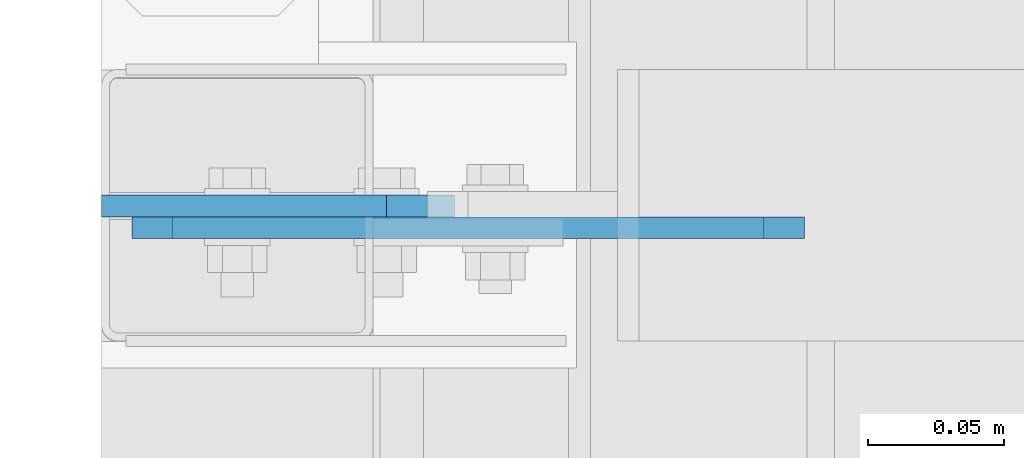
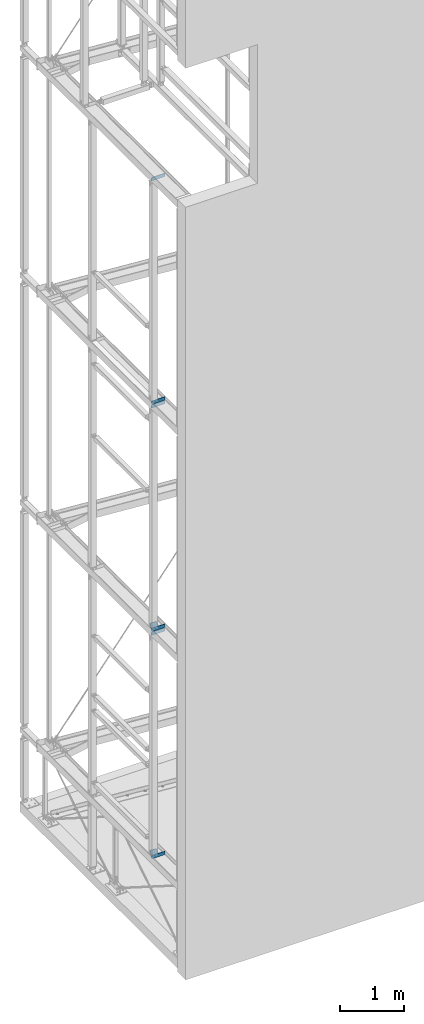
# One storey, part 104 of 271: 8 plates, 6 elements without a shape of their own.
"""IFC2X3 building model written with IfcOpenShell, lengths in millimetres."""

from ifc_helpers import new_model, si_unit, frame, origin_with_axes, place, context, subcontext, project, spatial, polyline, outline, extrude, material, type_object, element, aggregate, save


model = new_model("IFC2X3")

# Units and contexts
model_context = context("Model", 3, precision=1e-05, world=origin_with_axes())
body_context = subcontext(model_context, "Body", "Model", "MODEL_VIEW")
ifc_project = project(units=[si_unit("LENGTHUNIT", "METRE", prefix="MILLI"), si_unit("AREAUNIT", "SQUARE_METRE"), si_unit("VOLUMEUNIT", "CUBIC_METRE"), si_unit("MASSUNIT", "GRAM", prefix="KILO"), si_unit("TIMEUNIT", "SECOND"), si_unit("PLANEANGLEUNIT", "RADIAN"), si_unit("SOLIDANGLEUNIT", "STERADIAN"), si_unit("THERMODYNAMICTEMPERATUREUNIT", "DEGREE_CELSIUS"), si_unit("LUMINOUSINTENSITYUNIT", "LUMEN")], contexts=[model_context])

# Site, building, storey
site_placement = place(None, origin_with_axes())
site = spatial("IfcSite", under=ifc_project, at=site_placement, Name="Undefined", CompositionType="ELEMENT")
building_placement = place(site_placement, origin_with_axes())
building = spatial("IfcBuilding", under=site, at=building_placement, Name="Undefined", CompositionType="ELEMENT")
storey_placement = place(building_placement, origin_with_axes())
storey = spatial("IfcBuildingStorey", under=building, at=storey_placement, Name="Undefined", CompositionType="ELEMENT", Elevation=0.0)

# Assembly, plate
assembly_1_placement = place(storey_placement, origin_with_axes())
assembly_1 = element("IfcElementAssembly", 1, at=assembly_1_placement, inside=storey, AssemblyPlace="NOTDEFINED", PredefinedType="RIGID_FRAME")
ifc_material = material(Name="STEEL/S355JR")
plate_type_1 = type_object("IfcPlateType", Name="BL8*130", PredefinedType="NOTDEFINED")
plate_1_placement = place(assembly_1_placement, frame((118.375687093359, 899.052119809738, 5851.84999990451), z_axis=(0.0, 1.0, 0.0), x_axis=(0.0, 0.0, -1.0)))
plate_1 = element("IfcPlate", 2, at=plate_1_placement, type_object=plate_type_1, material=ifc_material, Name="BLACHA", ObjectType="BL8*130", context=body_context, shape_type="SweptSolid", body=[
    extrude(outline(polyline([(0.0, 25.0), (70.0, -8.66862137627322e-13), (150.0, -1.68398628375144e-12), (150.0, 105.0), (90.0, 105.0), (90.0, 130.0), (-3.5527136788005e-14, 130.0), (0.0, 25.0)])), frame((0.0, 0.0, -4.0), z_axis=(0.0, 0.0, 1.0), x_axis=(1.0, 0.0, 0.0)), (0.0, 0.0, 1.0), 8.0),
])
aggregate(assembly_1, [plate_1])

assembly_2_placement = place(storey_placement, origin_with_axes())
assembly_2 = element("IfcElementAssembly", 3, at=assembly_2_placement, inside=storey, AssemblyPlace="NOTDEFINED", PredefinedType="RIGID_FRAME")
plate_2_placement = place(assembly_2_placement, frame((118.375687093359, 899.052119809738, 1531.84999990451), z_axis=(0.0, 1.0, 0.0), x_axis=(0.0, 0.0, -1.0)))
plate_2 = element("IfcPlate", 4, at=plate_2_placement, type_object=plate_type_1, material=ifc_material, Name="BLACHA", ObjectType="BL8*130", context=body_context, shape_type="SweptSolid", body=[
    extrude(outline(polyline([(0.0, 25.0), (70.0, -8.66862137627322e-13), (150.0, -1.68398628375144e-12), (150.0, 105.0), (90.0, 105.0), (90.0, 130.0), (-3.5527136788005e-14, 130.0), (0.0, 25.0)])), frame((0.0, 0.0, -4.0), z_axis=(0.0, 0.0, 1.0), x_axis=(1.0, 0.0, 0.0)), (0.0, 0.0, 1.0), 8.0),
])
aggregate(assembly_2, [plate_2])

assembly_3_placement = place(storey_placement, origin_with_axes())
assembly_3 = element("IfcElementAssembly", 5, at=assembly_3_placement, inside=storey, AssemblyPlace="NOTDEFINED", PredefinedType="RIGID_FRAME")
plate_type_2 = type_object("IfcPlateType", Name="BL8*64", PredefinedType="NOTDEFINED")
plate_3_placement = place(assembly_3_placement, frame((-0.42431309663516, 891.052119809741, 14256.8499999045), z_axis=(0.0, 1.0, 0.0), x_axis=(0.0, 0.0, 1.0)))
plate_3 = element("IfcPlate", 6, at=plate_3_placement, type_object=plate_type_2, material=ifc_material, Name="BLACHA", ObjectType="BL8*64", context=body_context, shape_type="SweptSolid", body=[
    extrude(outline(polyline([(0.0, 0.0), (49.1999969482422, 0.0), (64.1999969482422, 15.0), (64.1999969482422, 232.600006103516), (49.1999969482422, 247.600006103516), (0.0, 247.600006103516), (0.0, 0.0)])), frame((0.0, 0.0, -4.0), z_axis=(0.0, 0.0, 1.0), x_axis=(1.0, 0.0, 0.0)), (0.0, 0.0, 1.0), 8.0),
])
aggregate(assembly_3, [plate_3])

# Assembly, plates
assembly_4_placement = place(storey_placement, origin_with_axes())
assembly_4 = element("IfcElementAssembly", 7, at=assembly_4_placement, inside=storey, AssemblyPlace="NOTDEFINED", PredefinedType="RIGID_FRAME")
plate_4_placement = place(assembly_4_placement, frame((-0.42431309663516, 891.052119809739, 9936.84999990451), z_axis=(0.0, 1.0, 0.0), x_axis=(0.0, 0.0, 1.0)))
plate_4 = element("IfcPlate", 8, at=plate_4_placement, type_object=plate_type_2, material=ifc_material, Name="BLACHA", ObjectType="BL8*64", context=body_context, shape_type="SweptSolid", body=[
    extrude(outline(polyline([(0.0, 0.0), (49.1999969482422, 0.0), (64.1999969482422, 15.0), (64.1999969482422, 232.600006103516), (49.1999969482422, 247.600006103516), (0.0, 247.600006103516), (0.0, 0.0)])), frame((0.0, 0.0, -4.0), z_axis=(0.0, 0.0, 1.0), x_axis=(1.0, 0.0, 0.0)), (0.0, 0.0, 1.0), 8.0),
])
plate_5_placement = place(assembly_4_placement, frame((-0.42431309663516, 891.052119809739, 10007.649999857), z_axis=(0.0, 1.0, 0.0), x_axis=(0.0, 0.0, 1.0)))
plate_5 = element("IfcPlate", 9, at=plate_5_placement, type_object=plate_type_2, material=ifc_material, Name="BLACHA", ObjectType="BL8*64", context=body_context, shape_type="SweptSolid", body=[
    extrude(outline(polyline([(0.0, 15.0), (15.0, -1.59872115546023e-14), (64.1999969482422, -1.77635683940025e-14), (64.1999969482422, 247.600006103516), (15.0, 247.600006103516), (0.0, 232.600006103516), (0.0, 15.0)])), frame((0.0, 0.0, -4.0), z_axis=(0.0, 0.0, 1.0), x_axis=(1.0, 0.0, 0.0)), (0.0, 0.0, 1.0), 8.0),
])
aggregate(assembly_4, [plate_4, plate_5])

# Assembly, plate
assembly_5_placement = place(storey_placement, origin_with_axes())
assembly_5 = element("IfcElementAssembly", 10, at=assembly_5_placement, inside=storey, AssemblyPlace="NOTDEFINED", PredefinedType="RIGID_FRAME")
plate_6_placement = place(assembly_5_placement, frame((-0.42431309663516, 891.052119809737, 1367.64999985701), z_axis=(0.0, 1.0, 0.0), x_axis=(0.0, 0.0, 1.0)))
plate_6 = element("IfcPlate", 11, at=plate_6_placement, type_object=plate_type_2, material=ifc_material, Name="BLACHA", ObjectType="BL8*64", context=body_context, shape_type="SweptSolid", body=[
    extrude(outline(polyline([(0.0, 15.0), (15.0, -1.59872115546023e-14), (64.1999969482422, -1.77635683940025e-14), (64.1999969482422, 247.600006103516), (15.0, 247.600006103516), (0.0, 232.600006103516), (0.0, 15.0)])), frame((0.0, 0.0, -4.0), z_axis=(0.0, 0.0, 1.0), x_axis=(1.0, 0.0, 0.0)), (0.0, 0.0, 1.0), 8.0),
])
aggregate(assembly_5, [plate_6])

# Assembly, plates
assembly_6_placement = place(storey_placement, origin_with_axes())
assembly_6 = element("IfcElementAssembly", 12, at=assembly_6_placement, inside=storey, AssemblyPlace="NOTDEFINED", PredefinedType="RIGID_FRAME")
plate_7_placement = place(assembly_6_placement, frame((-0.42431309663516, 891.052119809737, 5616.84999990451), z_axis=(0.0, 1.0, 0.0), x_axis=(0.0, 0.0, 1.0)))
plate_7 = element("IfcPlate", 13, at=plate_7_placement, type_object=plate_type_2, material=ifc_material, Name="BLACHA", ObjectType="BL8*64", context=body_context, shape_type="SweptSolid", body=[
    extrude(outline(polyline([(0.0, 0.0), (49.1999969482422, 0.0), (64.1999969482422, 15.0), (64.1999969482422, 232.600006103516), (49.1999969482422, 247.600006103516), (0.0, 247.600006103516), (0.0, 0.0)])), frame((0.0, 0.0, -4.0), z_axis=(0.0, 0.0, 1.0), x_axis=(1.0, 0.0, 0.0)), (0.0, 0.0, 1.0), 8.0),
])
plate_8_placement = place(assembly_6_placement, frame((-0.42431309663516, 891.052119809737, 5687.64999985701), z_axis=(0.0, 1.0, 0.0), x_axis=(0.0, 0.0, 1.0)))
plate_8 = element("IfcPlate", 14, at=plate_8_placement, type_object=plate_type_2, material=ifc_material, Name="BLACHA", ObjectType="BL8*64", context=body_context, shape_type="SweptSolid", body=[
    extrude(outline(polyline([(0.0, 15.0), (15.0, -1.59872115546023e-14), (64.1999969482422, -1.77635683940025e-14), (64.1999969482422, 247.600006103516), (15.0, 247.600006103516), (0.0, 232.600006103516), (0.0, 15.0)])), frame((0.0, 0.0, -4.0), z_axis=(0.0, 0.0, 1.0), x_axis=(1.0, 0.0, 0.0)), (0.0, 0.0, 1.0), 8.0),
])
aggregate(assembly_6, [plate_7, plate_8])

save(model, "model.ifc")
